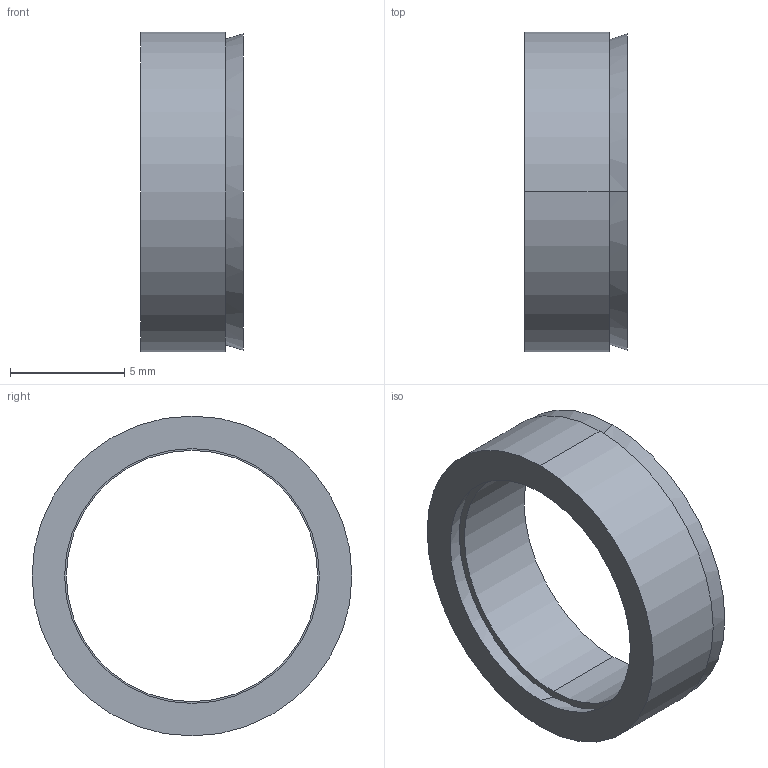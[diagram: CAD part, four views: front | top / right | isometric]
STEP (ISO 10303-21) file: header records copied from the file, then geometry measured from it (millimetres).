
FILE_DESCRIPTION (( 'STEP AP203' ), '1' );
FILE_NAME ('SAPL-R-11-14.STEP', '2019-05-31T00:57:13', ( '' ), ( '' ), 'SwSTEP 2.0', 'SolidWorks 2015', '' );
FILE_SCHEMA (( 'CONFIG_CONTROL_DESIGN' ));
Length unit declared in the file: millimetre
Products named in the file (1): SAPL-R-11-14
Bounding box: 4.5 x 14 x 14 mm (x, y, z)
Volume: 252.8 mm3; surface area: 730.6 mm2
Topology: 2 solids, 2 shells, 12 faces, 24 edges, 16 vertices
Faces by surface type: cylinder 4, cone 4, plane 4
Entity records: 407 total; most frequent: DIRECTION 66, CARTESIAN_POINT 53, ORIENTED_EDGE 48, AXIS2_PLACEMENT_3D 29, EDGE_CURVE 24, EDGE_LOOP 16, VERTEX_POINT 16, CIRCLE 16
